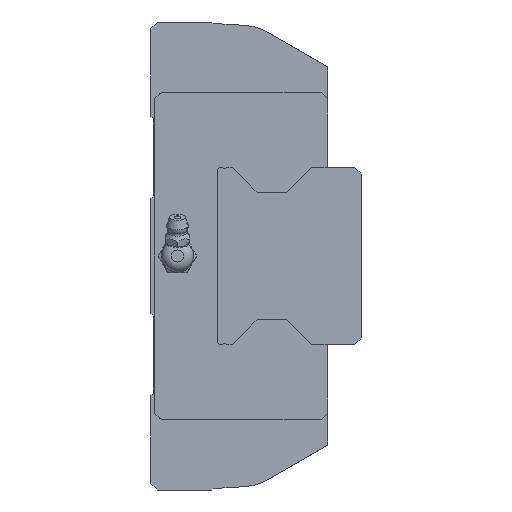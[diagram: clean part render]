
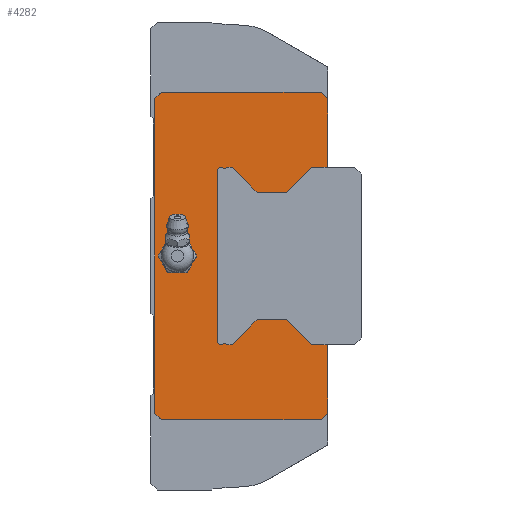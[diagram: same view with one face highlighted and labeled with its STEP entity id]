
A CAD part, left-side view. The second image highlights one B-rep face of the part: STEP entity #4282.
In plain terms, the highlighted planar face has unit normal (-1, 0, 0).
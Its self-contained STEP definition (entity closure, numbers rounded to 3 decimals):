
#179=CIRCLE('',#4649,4.864);
#180=CIRCLE('',#4650,0.3);
#181=CIRCLE('',#4651,0.3);
#182=CIRCLE('',#4652,1.);
#183=CIRCLE('',#4653,1.);
#184=CIRCLE('',#4654,0.3);
#185=CIRCLE('',#4655,0.3);
#715=ORIENTED_EDGE('',*,*,#1729,.T.);
#716=ORIENTED_EDGE('',*,*,#1730,.T.);
#717=ORIENTED_EDGE('',*,*,#1718,.F.);
#718=ORIENTED_EDGE('',*,*,#1678,.F.);
#719=ORIENTED_EDGE('',*,*,#1674,.F.);
#720=ORIENTED_EDGE('',*,*,#1666,.F.);
#721=ORIENTED_EDGE('',*,*,#1706,.F.);
#722=ORIENTED_EDGE('',*,*,#1651,.F.);
#723=ORIENTED_EDGE('',*,*,#1689,.F.);
#724=ORIENTED_EDGE('',*,*,#1686,.F.);
#725=ORIENTED_EDGE('',*,*,#1720,.F.);
#726=ORIENTED_EDGE('',*,*,#1731,.T.);
#727=ORIENTED_EDGE('',*,*,#1732,.T.);
#728=ORIENTED_EDGE('',*,*,#1733,.F.);
#729=ORIENTED_EDGE('',*,*,#1734,.T.);
#730=ORIENTED_EDGE('',*,*,#1735,.F.);
#731=ORIENTED_EDGE('',*,*,#1736,.T.);
#732=ORIENTED_EDGE('',*,*,#1737,.T.);
#733=ORIENTED_EDGE('',*,*,#1738,.T.);
#734=ORIENTED_EDGE('',*,*,#1739,.T.);
#735=ORIENTED_EDGE('',*,*,#1740,.T.);
#736=ORIENTED_EDGE('',*,*,#1696,.T.);
#737=ORIENTED_EDGE('',*,*,#1741,.T.);
#738=ORIENTED_EDGE('',*,*,#1742,.T.);
#739=ORIENTED_EDGE('',*,*,#1743,.T.);
#740=ORIENTED_EDGE('',*,*,#1744,.T.);
#741=ORIENTED_EDGE('',*,*,#1745,.T.);
#742=ORIENTED_EDGE('',*,*,#1746,.F.);
#743=ORIENTED_EDGE('',*,*,#1747,.T.);
#744=ORIENTED_EDGE('',*,*,#1748,.F.);
#745=ORIENTED_EDGE('',*,*,#1749,.T.);
#1651=EDGE_CURVE('',#2202,#2203,#2592,.T.);
#1666=EDGE_CURVE('',#2217,#2218,#2607,.T.);
#1674=EDGE_CURVE('',#2218,#2224,#2614,.T.);
#1678=EDGE_CURVE('',#2224,#2226,#2618,.T.);
#1686=EDGE_CURVE('',#2233,#2234,#2626,.T.);
#1689=EDGE_CURVE('',#2234,#2202,#2629,.T.);
#1696=EDGE_CURVE('',#2237,#2239,#2635,.T.);
#1706=EDGE_CURVE('',#2203,#2217,#2641,.T.);
#1718=EDGE_CURVE('',#2226,#2245,#2651,.T.);
#1720=EDGE_CURVE('',#2252,#2233,#2653,.T.);
#1729=EDGE_CURVE('',#2260,#2260,#179,.T.);
#1730=EDGE_CURVE('',#2261,#2245,#2660,.T.);
#1731=EDGE_CURVE('',#2252,#2262,#2661,.T.);
#1732=EDGE_CURVE('',#2262,#2263,#2662,.T.);
#1733=EDGE_CURVE('',#2264,#2263,#180,.T.);
#1734=EDGE_CURVE('',#2264,#2265,#2663,.T.);
#1735=EDGE_CURVE('',#2266,#2265,#181,.T.);
#1736=EDGE_CURVE('',#2266,#2267,#2664,.T.);
#1737=EDGE_CURVE('',#2267,#2268,#2665,.T.);
#1738=EDGE_CURVE('',#2268,#2269,#2666,.T.);
#1739=EDGE_CURVE('',#2269,#2270,#2667,.T.);
#1740=EDGE_CURVE('',#2270,#2237,#182,.T.);
#1741=EDGE_CURVE('',#2239,#2271,#183,.T.);
#1742=EDGE_CURVE('',#2271,#2272,#2668,.T.);
#1743=EDGE_CURVE('',#2272,#2273,#2669,.T.);
#1744=EDGE_CURVE('',#2273,#2274,#2670,.T.);
#1745=EDGE_CURVE('',#2274,#2275,#2671,.T.);
#1746=EDGE_CURVE('',#2276,#2275,#184,.T.);
#1747=EDGE_CURVE('',#2276,#2277,#2672,.T.);
#1748=EDGE_CURVE('',#2278,#2277,#185,.T.);
#1749=EDGE_CURVE('',#2278,#2261,#2673,.T.);
#2202=VERTEX_POINT('',#6512);
#2203=VERTEX_POINT('',#6514);
#2217=VERTEX_POINT('',#6543);
#2218=VERTEX_POINT('',#6545);
#2224=VERTEX_POINT('',#6561);
#2226=VERTEX_POINT('',#6568);
#2233=VERTEX_POINT('',#6583);
#2234=VERTEX_POINT('',#6585);
#2237=VERTEX_POINT('',#6598);
#2239=VERTEX_POINT('',#6602);
#2245=VERTEX_POINT('',#6629);
#2252=VERTEX_POINT('',#6647);
#2260=VERTEX_POINT('',#6666);
#2261=VERTEX_POINT('',#6668);
#2262=VERTEX_POINT('',#6670);
#2263=VERTEX_POINT('',#6672);
#2264=VERTEX_POINT('',#6674);
#2265=VERTEX_POINT('',#6676);
#2266=VERTEX_POINT('',#6678);
#2267=VERTEX_POINT('',#6680);
#2268=VERTEX_POINT('',#6682);
#2269=VERTEX_POINT('',#6684);
#2270=VERTEX_POINT('',#6686);
#2271=VERTEX_POINT('',#6689);
#2272=VERTEX_POINT('',#6691);
#2273=VERTEX_POINT('',#6693);
#2274=VERTEX_POINT('',#6695);
#2275=VERTEX_POINT('',#6697);
#2276=VERTEX_POINT('',#6699);
#2277=VERTEX_POINT('',#6701);
#2278=VERTEX_POINT('',#6703);
#2592=LINE('',#6513,#2986);
#2607=LINE('',#6544,#3001);
#2614=LINE('',#6560,#3008);
#2618=LINE('',#6567,#3012);
#2626=LINE('',#6584,#3020);
#2629=LINE('',#6589,#3023);
#2635=LINE('',#6603,#3029);
#2641=LINE('',#6622,#3035);
#2651=LINE('',#6644,#3045);
#2653=LINE('',#6649,#3047);
#2660=LINE('',#6667,#3054);
#2661=LINE('',#6669,#3055);
#2662=LINE('',#6671,#3056);
#2663=LINE('',#6675,#3057);
#2664=LINE('',#6679,#3058);
#2665=LINE('',#6681,#3059);
#2666=LINE('',#6683,#3060);
#2667=LINE('',#6685,#3061);
#2668=LINE('',#6690,#3062);
#2669=LINE('',#6692,#3063);
#2670=LINE('',#6694,#3064);
#2671=LINE('',#6696,#3065);
#2672=LINE('',#6700,#3066);
#2673=LINE('',#6704,#3067);
#2986=VECTOR('',#5286,1000.);
#3001=VECTOR('',#5303,1000.);
#3008=VECTOR('',#5316,1000.);
#3012=VECTOR('',#5322,1000.);
#3020=VECTOR('',#5332,1000.);
#3023=VECTOR('',#5337,1000.);
#3029=VECTOR('',#5349,1000.);
#3035=VECTOR('',#5373,1000.);
#3045=VECTOR('',#5391,1000.);
#3047=VECTOR('',#5395,1000.);
#3054=VECTOR('',#5410,1000.);
#3055=VECTOR('',#5411,1000.);
#3056=VECTOR('',#5412,1000.);
#3057=VECTOR('',#5415,1000.);
#3058=VECTOR('',#5418,1000.);
#3059=VECTOR('',#5419,1000.);
#3060=VECTOR('',#5420,1000.);
#3061=VECTOR('',#5421,1000.);
#3062=VECTOR('',#5426,1000.);
#3063=VECTOR('',#5427,1000.);
#3064=VECTOR('',#5428,1000.);
#3065=VECTOR('',#5429,1000.);
#3066=VECTOR('',#5432,1000.);
#3067=VECTOR('',#5435,1000.);
#3437=EDGE_LOOP('',(#715));
#3438=EDGE_LOOP('',(#716,#717,#718,#719,#720,#721,#722,#723,#724,#725,#726,
#727,#728,#729,#730,#731,#732,#733,#734,#735,#736,#737,#738,#739,#740,#741,
#742,#743,#744,#745));
#3812=FACE_BOUND('',#3437,.T.);
#3813=FACE_BOUND('',#3438,.T.);
#4084=PLANE('',#4648);
#4282=ADVANCED_FACE('',(#3812,#3813),#4084,.F.);
#4648=AXIS2_PLACEMENT_3D('',#6664,#5406,#5407);
#4649=AXIS2_PLACEMENT_3D('',#6665,#5408,#5409);
#4650=AXIS2_PLACEMENT_3D('',#6673,#5413,#5414);
#4651=AXIS2_PLACEMENT_3D('',#6677,#5416,#5417);
#4652=AXIS2_PLACEMENT_3D('',#6687,#5422,#5423);
#4653=AXIS2_PLACEMENT_3D('',#6688,#5424,#5425);
#4654=AXIS2_PLACEMENT_3D('',#6698,#5430,#5431);
#4655=AXIS2_PLACEMENT_3D('',#6702,#5433,#5434);
#5286=DIRECTION('',(0.,0.707,0.707));
#5303=DIRECTION('',(0.,-0.707,0.707));
#5316=DIRECTION('',(0.,-1.,0.));
#5322=DIRECTION('',(0.,-0.707,-0.707));
#5332=DIRECTION('',(0.,0.707,-0.707));
#5337=DIRECTION('',(0.,1.,0.));
#5349=DIRECTION('',(0.,0.,1.));
#5373=DIRECTION('',(0.,0.,1.));
#5391=DIRECTION('',(0.,0.,-1.));
#5395=DIRECTION('',(0.,0.,-1.));
#5406=DIRECTION('',(1.,0.,0.));
#5407=DIRECTION('',(0.,0.,-1.));
#5408=DIRECTION('',(1.,0.,0.));
#5409=DIRECTION('',(0.,0.,-1.));
#5410=DIRECTION('',(0.,-1.,0.));
#5411=DIRECTION('',(0.,1.,0.));
#5412=DIRECTION('',(0.,0.712,0.702));
#5413=DIRECTION('',(1.,0.,0.));
#5414=DIRECTION('',(0.,0.,-1.));
#5415=DIRECTION('',(0.,1.,0.));
#5416=DIRECTION('',(1.,0.,0.));
#5417=DIRECTION('',(0.,0.,-1.));
#5418=DIRECTION('',(0.,0.707,-0.707));
#5419=DIRECTION('',(0.,1.,0.));
#5420=DIRECTION('',(0.,0.707,0.707));
#5421=DIRECTION('',(0.,1.,0.));
#5422=DIRECTION('',(1.,0.,0.));
#5423=DIRECTION('',(0.,0.,-1.));
#5424=DIRECTION('',(1.,0.,0.));
#5425=DIRECTION('',(0.,0.,-1.));
#5426=DIRECTION('',(0.,-1.,0.));
#5427=DIRECTION('',(0.,-0.707,0.707));
#5428=DIRECTION('',(0.,-1.,0.));
#5429=DIRECTION('',(0.,-0.707,-0.707));
#5430=DIRECTION('',(1.,0.,0.));
#5431=DIRECTION('',(0.,0.,-1.));
#5432=DIRECTION('',(0.,-1.,0.));
#5433=DIRECTION('',(1.,0.,0.));
#5434=DIRECTION('',(0.,0.,-1.));
#5435=DIRECTION('',(0.,-0.712,0.702));
#6512=CARTESIAN_POINT('',(-117.5,49.8,-49.));
#6513=CARTESIAN_POINT('',(-117.5,49.8,-49.));
#6514=CARTESIAN_POINT('',(-117.5,51.8,-47.));
#6543=CARTESIAN_POINT('',(-117.5,51.8,47.));
#6544=CARTESIAN_POINT('',(-117.5,51.8,47.));
#6545=CARTESIAN_POINT('',(-117.5,49.8,49.));
#6560=CARTESIAN_POINT('',(-117.5,49.8,49.));
#6561=CARTESIAN_POINT('',(-117.5,2.,49.));
#6567=CARTESIAN_POINT('',(-117.5,2.,49.));
#6568=CARTESIAN_POINT('',(-117.5,0.,47.));
#6583=CARTESIAN_POINT('',(-117.5,0.,-47.));
#6584=CARTESIAN_POINT('',(-117.5,0.,-47.));
#6585=CARTESIAN_POINT('',(-117.5,2.,-49.));
#6589=CARTESIAN_POINT('',(-117.5,2.,-49.));
#6598=CARTESIAN_POINT('',(-117.5,33.,-25.5));
#6602=CARTESIAN_POINT('',(-117.5,33.,25.5));
#6603=CARTESIAN_POINT('',(-117.5,33.,-25.5));
#6622=CARTESIAN_POINT('',(-117.5,51.8,-47.));
#6629=CARTESIAN_POINT('',(-117.5,0.,26.5));
#6644=CARTESIAN_POINT('',(-117.5,0.,47.));
#6647=CARTESIAN_POINT('',(-117.5,0.,-26.5));
#6649=CARTESIAN_POINT('',(-117.5,0.,47.));
#6664=CARTESIAN_POINT('',(-117.5,0.,0.));
#6665=CARTESIAN_POINT('',(-117.5,45.,0.));
#6666=CARTESIAN_POINT('',(-117.5,45.,-4.864));
#6667=CARTESIAN_POINT('',(-117.5,4.83,26.5));
#6668=CARTESIAN_POINT('',(-117.5,4.83,26.5));
#6669=CARTESIAN_POINT('',(-117.5,-8.,-26.5));
#6670=CARTESIAN_POINT('',(-117.5,4.83,-26.5));
#6671=CARTESIAN_POINT('',(-117.5,4.83,-26.5));
#6672=CARTESIAN_POINT('',(-117.5,12.342,-19.086));
#6673=CARTESIAN_POINT('',(-117.5,12.553,-19.3));
#6674=CARTESIAN_POINT('',(-117.5,12.553,-19.));
#6675=CARTESIAN_POINT('',(-117.5,12.553,-19.));
#6676=CARTESIAN_POINT('',(-117.5,20.976,-19.));
#6677=CARTESIAN_POINT('',(-117.5,20.976,-19.3));
#6678=CARTESIAN_POINT('',(-117.5,21.188,-19.088));
#6679=CARTESIAN_POINT('',(-117.5,21.188,-19.088));
#6680=CARTESIAN_POINT('',(-117.5,28.6,-26.5));
#6681=CARTESIAN_POINT('',(-117.5,28.6,-26.5));
#6682=CARTESIAN_POINT('',(-117.5,30.25,-26.5));
#6683=CARTESIAN_POINT('',(-117.5,30.25,-26.5));
#6684=CARTESIAN_POINT('',(-117.5,30.5,-26.25));
#6685=CARTESIAN_POINT('',(-117.5,30.5,-26.25));
#6686=CARTESIAN_POINT('',(-117.5,31.339,-26.25));
#6687=CARTESIAN_POINT('',(-117.5,32.,-25.5));
#6688=CARTESIAN_POINT('',(-117.5,32.,25.5));
#6689=CARTESIAN_POINT('',(-117.5,31.339,26.25));
#6690=CARTESIAN_POINT('',(-117.5,31.339,26.25));
#6691=CARTESIAN_POINT('',(-117.5,30.5,26.25));
#6692=CARTESIAN_POINT('',(-117.5,30.5,26.25));
#6693=CARTESIAN_POINT('',(-117.5,30.25,26.5));
#6694=CARTESIAN_POINT('',(-117.5,30.25,26.5));
#6695=CARTESIAN_POINT('',(-117.5,28.6,26.5));
#6696=CARTESIAN_POINT('',(-117.5,28.6,26.5));
#6697=CARTESIAN_POINT('',(-117.5,21.188,19.088));
#6698=CARTESIAN_POINT('',(-117.5,20.976,19.3));
#6699=CARTESIAN_POINT('',(-117.5,20.976,19.));
#6700=CARTESIAN_POINT('',(-117.5,20.976,19.));
#6701=CARTESIAN_POINT('',(-117.5,12.553,19.));
#6702=CARTESIAN_POINT('',(-117.5,12.553,19.3));
#6703=CARTESIAN_POINT('',(-117.5,12.342,19.086));
#6704=CARTESIAN_POINT('',(-117.5,12.342,19.086));
